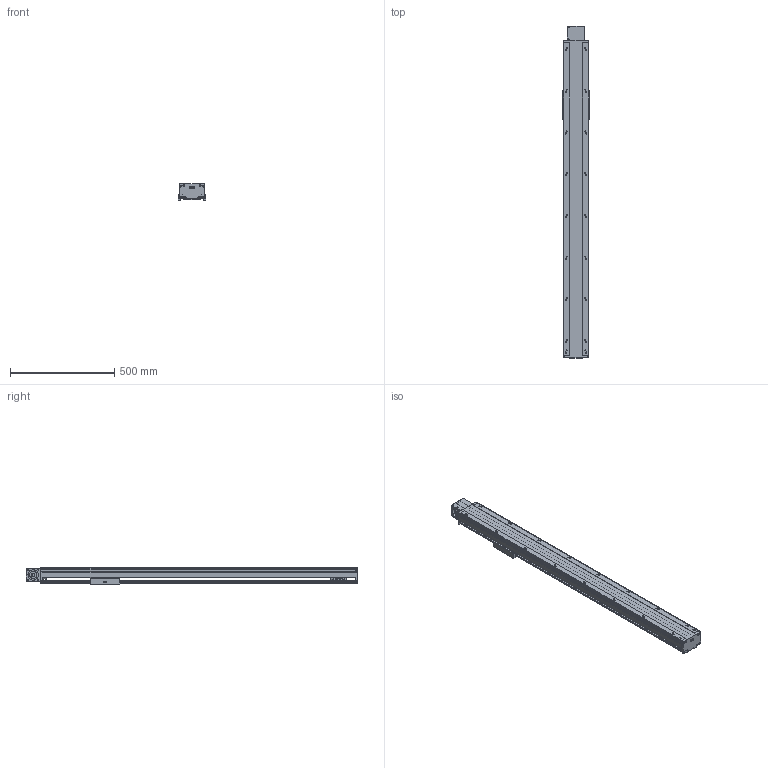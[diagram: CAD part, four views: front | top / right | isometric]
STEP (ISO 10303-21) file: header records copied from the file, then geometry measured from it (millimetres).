
FILE_DESCRIPTION(/* description */ (''),/* implementation_level */ '2;1');
FILE_NAME(/* name */ 'TKB120-FL-1200_asm1_stp.stp',/* time_stamp */ '2016-06-28T15:26:32+08:00',/* author */ (''),/* organization */ (''),/* preprocessor_version */ 'ST-DEVELOPER v15',/* originating_system */ 'SIEMENS PLM Software NX 8.5',/* authorisation */ '');
FILE_SCHEMA (('AUTOMOTIVE_DESIGN { 1 0 10303 214 3 1 1 1 }'));
Length unit declared in the file: millimetre
Products named in the file (3): 200-2; 200-1; TKB120-FL-1200_asm1_stp
Assembly tree (2 placements, depth 2):
  TKB120-FL-1200_asm1_stp
    200-1
    200-2
Bounding box: 134 x 1591 x 80 mm (x, y, z)
Volume: 4060644.7 mm3; surface area: 1644766.7 mm2
Topology: 2 solids, 3 shells, 816 faces, 2353 edges, 1540 vertices
Faces by surface type: cylinder 403, plane 371, cone 42
Full cylindrical faces by diameter (mm): 2.5 x4, 3.3 x20, 4.2 x4, 4.5 x24, 5 x28, 5.5 x18, 6.6 x6, 6.8 x4, 7.5 x4, 8 x12, 9 x6, 9.75 x36, 10.5 x4, 11 x2, 12 x4, 14 x2, 17 x2, 35 x2, 40 x3, 50 x2, 52 x1
Entity records: 26634 total; most frequent: CARTESIAN_POINT 5727, DIRECTION 4393, ORIENTED_EDGE 4034, EDGE_CURVE 2017, AXIS2_PLACEMENT_3D 1672, VERTEX_POINT 1476, EDGE_LOOP 1231, LINE 1049
